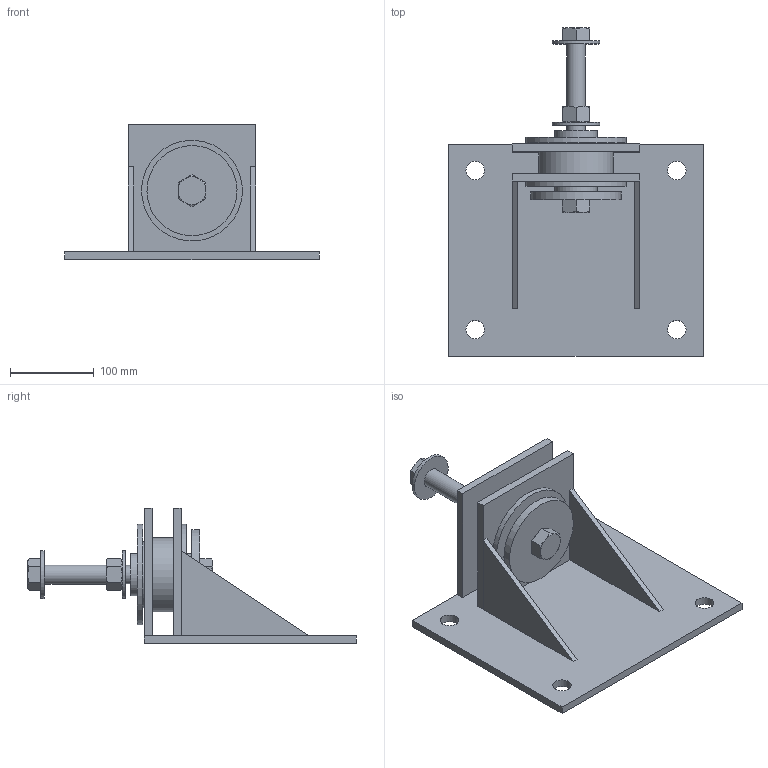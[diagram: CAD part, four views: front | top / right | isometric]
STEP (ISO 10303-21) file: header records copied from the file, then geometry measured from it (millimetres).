
FILE_DESCRIPTION((''),'2;1');
FILE_NAME('C:\2012_Work\Designs\Z-1225\Z-1225-3000\A-16081-5 Z-1225-3000 ASSY.stp','2013-10-02T15:26:13',('KShiels'),(''),'Autodesk Inventor 2012','Autodesk Inventor 2012','');
FILE_SCHEMA(('AUTOMOTIVE_DESIGN { 1 0 10303 214 1 1 1 1 }'));
Length unit declared in the file: inch
Products named in the file (13): A-16081-5 Z-1225-3000 ASSY; A-16081-5 PLATE A Z-1225-3000; A-16081-5 PLATE B Z-1225-3000; ANSI_AISC  - 3-1(2); A-16081-5 GUSSET Z-1225-3000; A-16081-5 STEEL BUSHING Z-1225-3000; A-16081-5 WASHER Z-1225-3000; Hex Bolt - Inch 7/8-9 UNC - 1.5; A-16391 NOEPRENE BUSHING Z-1225-3000; A-17132-1 ANCHOR BOLT Z-1225-3000; Hex Bolt - Inch 7/8-9 UNC - 6; Plain Washer (Inch) 7/8 - Regular - Type B; Hex Nut - Inch 7/8 - 9
Assembly tree (15 placements, depth 3):
  A-16081-5 Z-1225-3000 ASSY
    A-16081-5 PLATE A Z-1225-3000
    A-16081-5 PLATE B Z-1225-3000  x2
    ANSI_AISC  - 3-1(2)
    A-16081-5 GUSSET Z-1225-3000  x2
    A-16081-5 STEEL BUSHING Z-1225-3000
    A-16081-5 WASHER Z-1225-3000
    Hex Bolt - Inch 7/8-9 UNC - 1.5
    A-16391 NOEPRENE BUSHING Z-1225-3000
    A-17132-1 ANCHOR BOLT Z-1225-3000
      Hex Bolt - Inch 7/8-9 UNC - 6
      Plain Washer (Inch) 7/8 - Regular - Type B  x2
      Hex Nut - Inch 7/8 - 9
Bounding box: 304.8 x 393.17 x 161.93 mm (x, y, z)
Volume: 1717761.5 mm3; surface area: 441044.6 mm2
Topology: 14 solids, 14 shells, 138 faces, 282 edges, 176 vertices
Faces by surface type: plane 80, cone 30, cylinder 26, torus 2
Full cylindrical faces by diameter (mm): 19.177 x2, 22.225 x6, 22.733 x1, 23.825 x2, 25.4 x1, 33.325 x2, 50.8 x1, 57.15 x2, 66.675 x1, 77.927 x1, 79.375 x3, 88.9 x1, 107.95 x1, 120.65 x2
Entity records: 3379 total; most frequent: CARTESIAN_POINT 601, DIRECTION 549, ORIENTED_EDGE 420, AXIS2_PLACEMENT_3D 237, EDGE_CURVE 210, EDGE_LOOP 179, VERTEX_POINT 145, FACE_OUTER_BOUND 122
